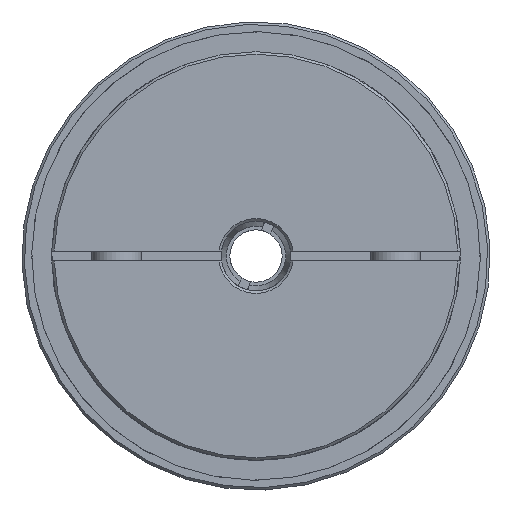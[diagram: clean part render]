
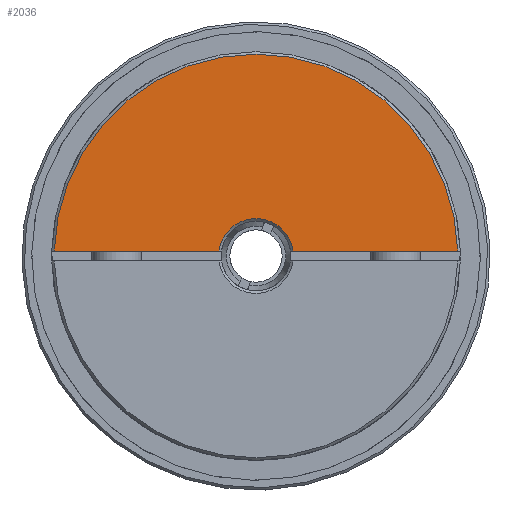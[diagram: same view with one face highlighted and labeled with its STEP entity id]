
A CAD part, left-side view. The second image highlights one B-rep face of the part: STEP entity #2036.
In plain terms, the highlighted planar face has unit normal (-1, 0, 0) as drawn and (1, 0, 0) by its records, which use the part's own axes.
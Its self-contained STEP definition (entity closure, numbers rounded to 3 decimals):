
#2036 = ADVANCED_FACE( '', ( #2919 ), #2920, .T. );
#2919 = FACE_OUTER_BOUND( '', #4361, .T. );
#2920 = PLANE( '', #4362 );
#4361 = EDGE_LOOP( '', ( #5192, #5193, #5194, #5195 ) );
#4362 = AXIS2_PLACEMENT_3D( '', #5196, #5197, #5198 );
#5192 = ORIENTED_EDGE( '', *, *, #6109, .F. );
#5193 = ORIENTED_EDGE( '', *, *, #6110, .T. );
#5194 = ORIENTED_EDGE( '', *, *, #6111, .F. );
#5195 = ORIENTED_EDGE( '', *, *, #6112, .T. );
#5196 = CARTESIAN_POINT( '', ( 36., 0., 41. ) );
#5197 = DIRECTION( '', ( 1., 0., 0. ) );
#5198 = DIRECTION( '', ( 0., 0., -1. ) );
#6109 = EDGE_CURVE( '', #7872, #7873, #7874, .T. );
#6110 = EDGE_CURVE( '', #7872, #7875, #7876, .T. );
#6111 = EDGE_CURVE( '', #7877, #7875, #7878, .T. );
#6112 = EDGE_CURVE( '', #7877, #7873, #7879, .F. );
#7872 = VERTEX_POINT( '', #8896 );
#7873 = VERTEX_POINT( '', #8897 );
#7874 = LINE( '', #8898, #8899 );
#7875 = VERTEX_POINT( '', #8900 );
#7876 = CIRCLE( '', #8901, 40.5 );
#7877 = VERTEX_POINT( '', #8902 );
#7878 = LINE( '', #8903, #8904 );
#7879 = CIRCLE( '', #8905, 7.5 );
#8896 = CARTESIAN_POINT( '', ( 36., 40.488, 1. ) );
#8897 = CARTESIAN_POINT( '', ( 36., 7.433, 1. ) );
#8898 = CARTESIAN_POINT( '', ( 36., 0., 1. ) );
#8899 = VECTOR( '', #9197, 1000. );
#8900 = CARTESIAN_POINT( '', ( 36., -40.488, 1. ) );
#8901 = AXIS2_PLACEMENT_3D( '', #9198, #9199, #9200 );
#8902 = CARTESIAN_POINT( '', ( 36., -7.433, 1. ) );
#8903 = CARTESIAN_POINT( '', ( 36., 0., 1. ) );
#8904 = VECTOR( '', #9201, 1000. );
#8905 = AXIS2_PLACEMENT_3D( '', #9202, #9203, #9204 );
#9197 = DIRECTION( '', ( 0., -1., 0. ) );
#9198 = CARTESIAN_POINT( '', ( 36., 0., 0. ) );
#9199 = DIRECTION( '', ( 1., 0., 0. ) );
#9200 = DIRECTION( '', ( 0., 0., -1. ) );
#9201 = DIRECTION( '', ( 0., -1., 0. ) );
#9202 = CARTESIAN_POINT( '', ( 36., 0., 0. ) );
#9203 = DIRECTION( '', ( 1., 0., 0. ) );
#9204 = DIRECTION( '', ( 0., 0., -1. ) );
